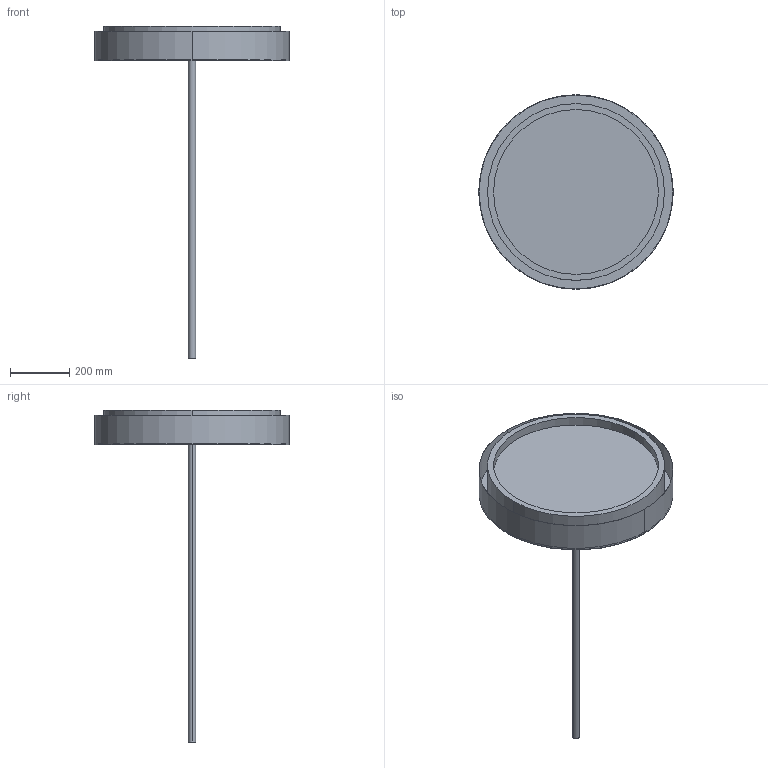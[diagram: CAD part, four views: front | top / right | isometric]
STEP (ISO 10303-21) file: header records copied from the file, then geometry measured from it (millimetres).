
FILE_DESCRIPTION (( 'STEP AP203' ), '1' );
FILE_NAME ('Okr¹g³a zwieszana 655mm.STEP', '2020-07-12T21:20:45', ( '' ), ( '' ), 'SwSTEP 2.0', 'SolidWorks 2012', '' );
FILE_SCHEMA (( 'CONFIG_CONTROL_DESIGN' ));
Length unit declared in the file: millimetre
Products named in the file (1): Okr鉚豉 zwieszana 655mm
Bounding box: 655 x 655 x 1117.6 mm (x, y, z)
Volume: 6627278.8 mm3; surface area: 2096848.5 mm2
Topology: 2 solids, 3 shells, 29 faces, 54 edges, 36 vertices
Faces by surface type: cylinder 18, plane 11
Entity records: 821 total; most frequent: DIRECTION 150, CARTESIAN_POINT 120, ORIENTED_EDGE 108, AXIS2_PLACEMENT_3D 66, EDGE_CURVE 54, CIRCLE 36, VERTEX_POINT 36, EDGE_LOOP 36
